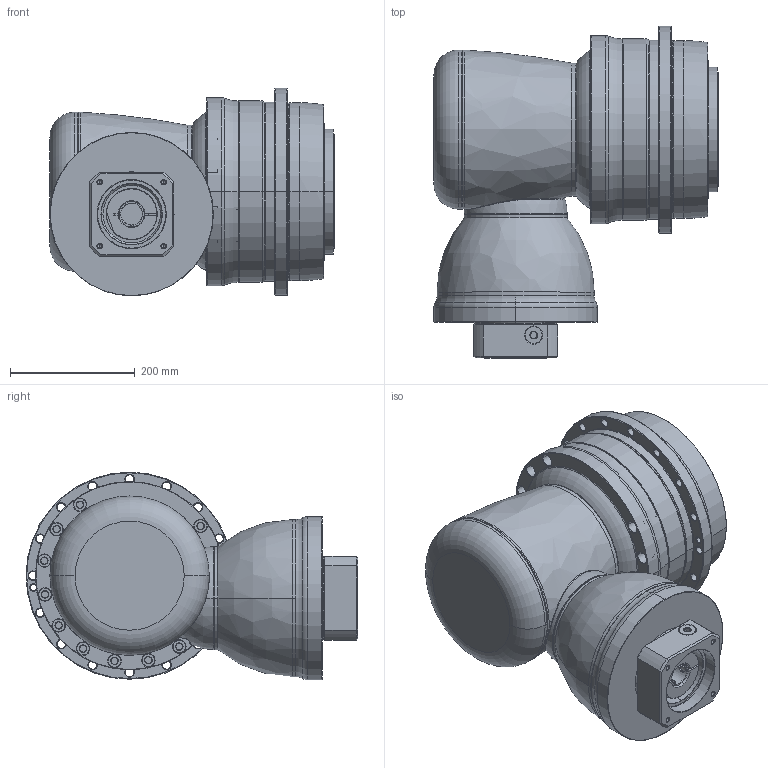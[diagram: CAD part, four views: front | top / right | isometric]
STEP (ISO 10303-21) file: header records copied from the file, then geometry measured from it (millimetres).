
FILE_DESCRIPTION((''),'2;1');
FILE_NAME('AHK285_2ST_35-P0409800101_ASM','2016-10-17T',('d01943'),(''),'PRO/ENGINEER BY PARAMETRIC TECHNOLOGY CORPORATION, 2008410','PRO/ENGINEER BY PARAMETRIC TECHNOLOGY CORPORATION, 2008410','');
FILE_SCHEMA(('CONFIG_CONTROL_DESIGN'));
Length unit declared in the file: millimetre
Products named in the file (12): P1008700002; P1802800001; P0278800003; P0359800003; P1315700001; P1007700001; P1318700001; P0503800012; P0912700201; P0409800101; 21711422019; AHK285_2ST_35-P0409800101_ASM
Assembly tree (11 placements, depth 2):
  AHK285_2ST_35-P0409800101_ASM
    P1008700002
    P1802800001
    P0278800003
    P0359800003
    P1315700001
    P1007700001
    P1318700001
    P0503800012
    P0912700201
    P0409800101
    21711422019
Bounding box: 455.5 x 532 x 333 mm (x, y, z)
Volume: 25404316.8 mm3; surface area: 1747550.5 mm2
Topology: 12 solids, 12 shells, 973 faces, 2202 edges, 1277 vertices
Faces by surface type: cylinder 345, cone 336, plane 136, torus 124, bspline 30, sphere 2
Entity records: 34643 total; most frequent: CARTESIAN_POINT 12205, DIRECTION 5164, ORIENTED_EDGE 4280, AXIS2_PLACEMENT_3D 2197, EDGE_CURVE 2140, VERTEX_POINT 1277, CIRCLE 1231, EDGE_LOOP 1155
